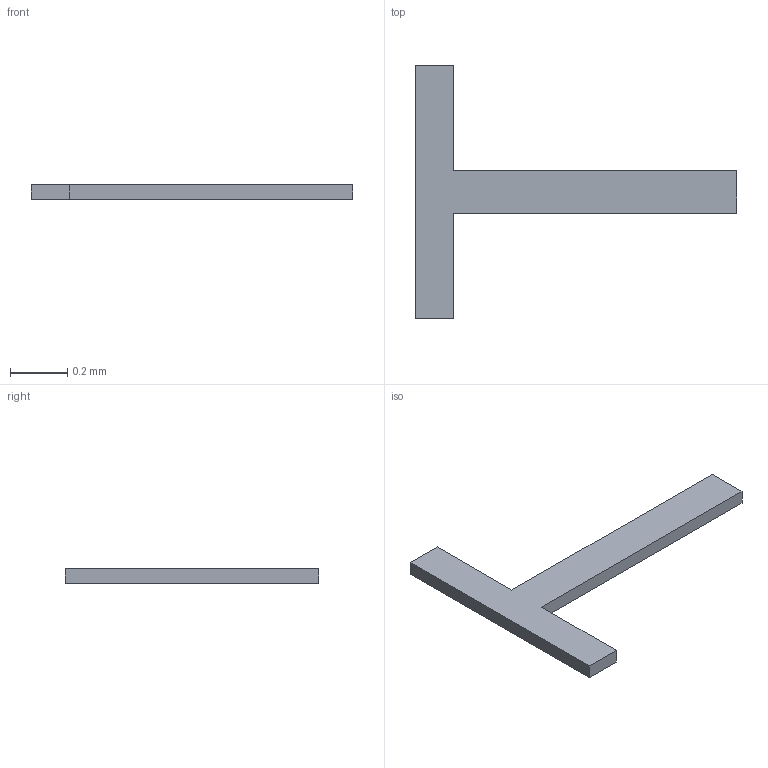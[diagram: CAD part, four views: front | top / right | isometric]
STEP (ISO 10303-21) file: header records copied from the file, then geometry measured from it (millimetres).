
FILE_DESCRIPTION(/* description */ ('STEP AP242 Edition 2','CAx-IF Rec.Pracs.---Representation and Presentation of Product Manufacturing Information (PMI)---4.0---2014-10-13','CAx-IF Rec.Pracs.---3D Tessellated Geometry---0.4---2014-09-14','2;1','CAx-IF Rec.Pracs.---User Defined Attributes---1.5---2016-08-15'),/* implementation_level */ '2;1');
FILE_NAME(/* name */ 'Drone Layout - Surface 301',/* time_stamp */ '2026-10-04T22:22:55Z',/* author */ (''),/* organization */ (''),/* preprocessor_version */ 'ST-DEVELOPER v20',/* originating_system */ 'ONSHAPE BY PTC INC, 1.221',/* authorisation */ ' ');
FILE_SCHEMA (('AP242_MANAGED_MODEL_BASED_3D_ENGINEERING_MIM_LF { 1 0 10303 442 3 1 4 }'));
Length unit declared in the file: metre
Products named in the file (1): Text_ITGMPU
Bounding box: 1.12 x 0.88 x 0.05 mm (x, y, z)
Volume: 0 mm3; surface area: 0.7 mm2
Topology: 1 solids, 1 shells, 10 faces, 24 edges, 16 vertices
Faces by surface type: plane 10
Entity records: 301 total; most frequent: CARTESIAN_POINT 51, ORIENTED_EDGE 48, DIRECTION 46, EDGE_CURVE 24, LINE 24, VECTOR 24, VERTEX_POINT 16, AXIS2_PLACEMENT_3D 11
